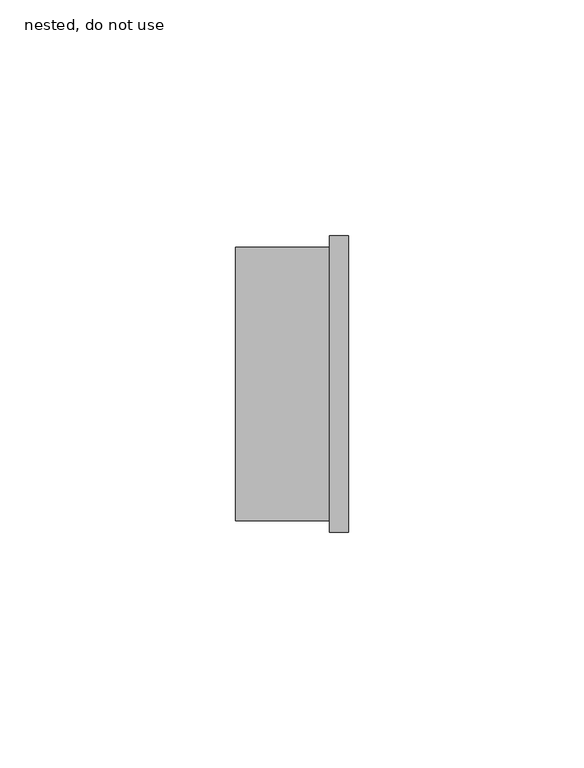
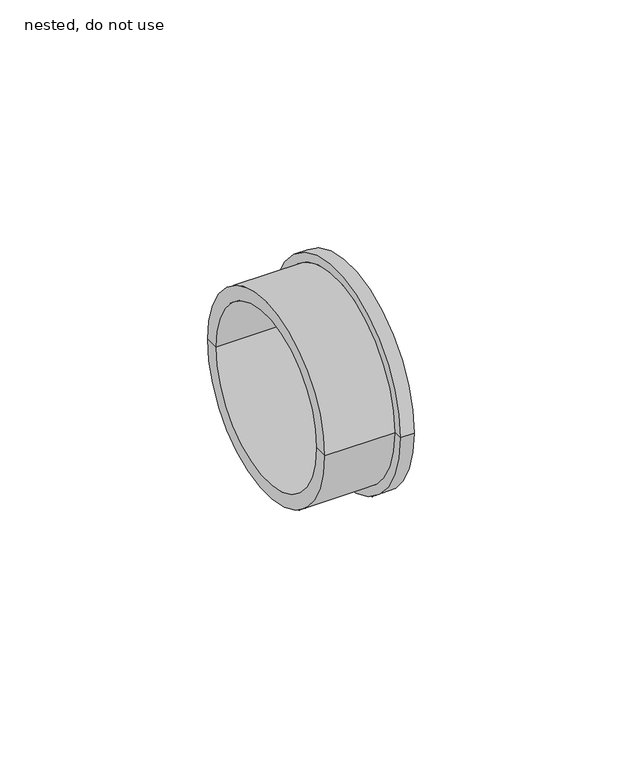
"""IFC4 building model written with IfcOpenShell, lengths in millimetres: pipe fitting geometry, ZZZ_do no use_PIF_HDPE rubber sleeve -SH_Akatherm : nested, do not use."""

from ifc_helpers import new_model, si_unit, frame, origin, place, context, project, spatial, polyline, circle_curve, source, transform, mapped, element, save
from ifc_brep_helpers import plane_surface, cylinder_surface, revolved_surface, advanced_brep


def nested_do_not_use_93614455(model_context):
    return source(origin(), model_context, "Body", "AdvancedBrep", [
        advanced_brep(
        [(8.0, -29.0, 0.0), (8.0, 29.0, 0.0), (8.0, 31.5, 0.0), (8.0, -31.5, 0.0), (-12.0, -29.0, 0.0), (-12.0, 29.0, 0.0), (-12.0, -25.0, 0.0), (-12.0, 25.0, 0.0), (12.0, -25.0, 0.0), (12.0, 25.0, 0.0), (12.0, -31.5, 0.0), (12.0, 31.5, 0.0)],
        [
            (0, 1, circle_curve(frame((8.0, 0.0, 0.0), z_axis=(1.0, 0.0, 0.0), x_axis=(0.0, 1.0, 0.0)), 29.0)),
            (1, 2),
            (2, 3, circle_curve(frame((8.0, 0.0, 0.0), z_axis=(-1.0, 0.0, 0.0), x_axis=(0.0, 1.0, 0.0)), 31.5)),
            (3, 0),
            (1, 0, circle_curve(frame((8.0, 0.0, 0.0), z_axis=(1.0, 0.0, 0.0), x_axis=(0.0, 1.0, 0.0)), 29.0)),
            (3, 2, circle_curve(frame((8.0, 0.0, 0.0), z_axis=(-1.0, 0.0, 0.0), x_axis=(0.0, 1.0, 0.0)), 31.5)),
            (4, 5, circle_curve(frame((-12.0, 0.0, 0.0), z_axis=(1.0, 0.0, 0.0), x_axis=(0.0, 1.0, 0.0)), 29.0)),
            (5, 1),
            (0, 4),
            (5, 4, circle_curve(frame((-12.0, 0.0, 0.0), z_axis=(1.0, 0.0, 0.0), x_axis=(0.0, 1.0, 0.0)), 29.0)),
            (6, 7, circle_curve(frame((-12.0, 0.0, 0.0), z_axis=(1.0, 0.0, 0.0), x_axis=(0.0, 1.0, 0.0)), 25.0)),
            (7, 5),
            (4, 6),
            (7, 6, circle_curve(frame((-12.0, 0.0, 0.0), z_axis=(1.0, 0.0, 0.0), x_axis=(0.0, 1.0, 0.0)), 25.0)),
            (8, 9, circle_curve(frame((12.0, 0.0, 0.0), z_axis=(1.0, 0.0, 0.0), x_axis=(0.0, 1.0, 0.0)), 25.0)),
            (9, 7),
            (6, 8),
            (9, 8, circle_curve(frame((12.0, 0.0, 0.0), z_axis=(1.0, 0.0, 0.0), x_axis=(0.0, 1.0, 0.0)), 25.0)),
            (10, 11, circle_curve(frame((12.0, 0.0, 0.0), z_axis=(1.0, 0.0, 0.0), x_axis=(0.0, 1.0, 0.0)), 31.5)),
            (11, 9),
            (8, 10),
            (11, 10, circle_curve(frame((12.0, 0.0, 0.0), z_axis=(1.0, 0.0, 0.0), x_axis=(0.0, 1.0, 0.0)), 31.5)),
            (2, 11),
            (10, 3),
        ],
        [
            plane_surface(frame((8.0, 0.0, 0.0), z_axis=(-1.0, 0.0, 0.0), x_axis=(0.0, 1.0, 0.0))),
            cylinder_surface(frame((-37.0, 0.0, 0.0), z_axis=(-1.0, 0.0, 0.0), x_axis=(0.0, 1.0, 0.0)), 29.0),
            plane_surface(frame((-12.0, 0.0, 0.0), z_axis=(-1.0, 0.0, 0.0), x_axis=(0.0, 1.0, 0.0))),
            revolved_surface(polyline([(-12.0, 25.0, 0.0), (12.0, 25.0, 0.0)]), (-37.0, 0.0, 0.0), (-1.0, 0.0, 0.0)),
            plane_surface(frame((12.0, 0.0, 0.0), z_axis=(1.0, 0.0, 0.0), x_axis=(0.0, 1.0, 0.0))),
            cylinder_surface(frame((-37.0, 0.0, 0.0), z_axis=(-1.0, 0.0, 0.0), x_axis=(0.0, 1.0, 0.0)), 31.5),
        ],
        [
            (0, [[1, 2, 3, 4]]),
            (0, [[5, -4, 6, -2]]),
            (1, [[7, 8, -1, 9]]),
            (1, [[10, -9, -5, -8]]),
            (2, [[11, 12, -7, 13]]),
            (2, [[14, -13, -10, -12]]),
            (3, [[15, 16, -11, 17]]),
            (3, [[18, -17, -14, -16]]),
            (4, [[19, 20, -15, 21]]),
            (4, [[22, -21, -18, -20]]),
            (5, [[-3, 23, -19, 24]]),
            (5, [[-6, -24, -22, -23]]),
        ],
    ),
    ])


if __name__ == "__main__":
    model = new_model("IFC4")
    model_context = context("Model", 3, world=origin())
    ifc_project = project(units=[si_unit("LENGTHUNIT", "METRE", prefix="MILLI")], contexts=[model_context])
    site = spatial("IfcSite", under=ifc_project)
    building = spatial("IfcBuilding", under=site)
    placement = place(None, origin())
    nested_do_not_use_shape = nested_do_not_use_93614455(model_context)
    element("IfcPipeFitting", 1, ObjectType="ZZZ_do no use_PIF_HDPE rubber sleeve -SH_Akatherm : nested, do not use", at=placement, inside=building, context=model_context, shape_type="MappedRepresentation", body=[
        mapped(nested_do_not_use_shape, transform((0.0, 0.0, 0.0), x_axis=(1.0, 0.0, 0.0), y_axis=(0.0, 1.0, 0.0), z_axis=(0.0, 0.0, 1.0))),
    ])
    save(model, "model.ifc")
